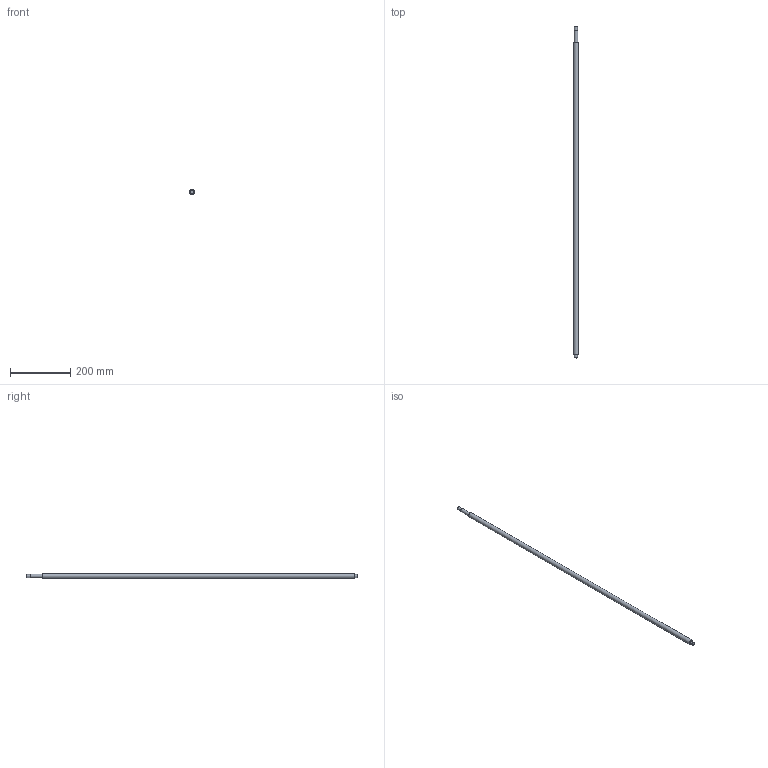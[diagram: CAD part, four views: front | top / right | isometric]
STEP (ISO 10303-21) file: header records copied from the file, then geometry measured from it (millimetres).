
FILE_DESCRIPTION(/* description */ (''),/* implementation_level */ '2;1');
FILE_NAME(/* name */ 'C:\Users\David\Desktop\stepFiles\Profilfuehrung\KUS1605x1100.stp',/* time_stamp */ '2018-06-24T15:08:47+02:00',/* author */ ('David'),/* organization */ (''),/* preprocessor_version */ 'ST-DEVELOPER v17',/* originating_system */ 'Autodesk Inventor 2019',/* authorisation */ '');
FILE_SCHEMA (('AUTOMOTIVE_DESIGN { 1 0 10303 214 3 1 1 }'));
Length unit declared in the file: millimetre
Products named in the file (1): SFU1605xvariabel
Bounding box: 16 x 1100 x 16 mm (x, y, z)
Volume: 214537.3 mm3; surface area: 54705.8 mm2
Topology: 1 solids, 1 shells, 15 faces, 34 edges, 26 vertices
Faces by surface type: plane 7, cylinder 6, cone 2
Full cylindrical faces by diameter (mm): 9.6 x1, 10 x3, 12 x1, 16 x1
Entity records: 493 total; most frequent: DIRECTION 92, CARTESIAN_POINT 76, ORIENTED_EDGE 68, AXIS2_PLACEMENT_3D 42, EDGE_CURVE 34, CIRCLE 26, VERTEX_POINT 26, EDGE_LOOP 20
